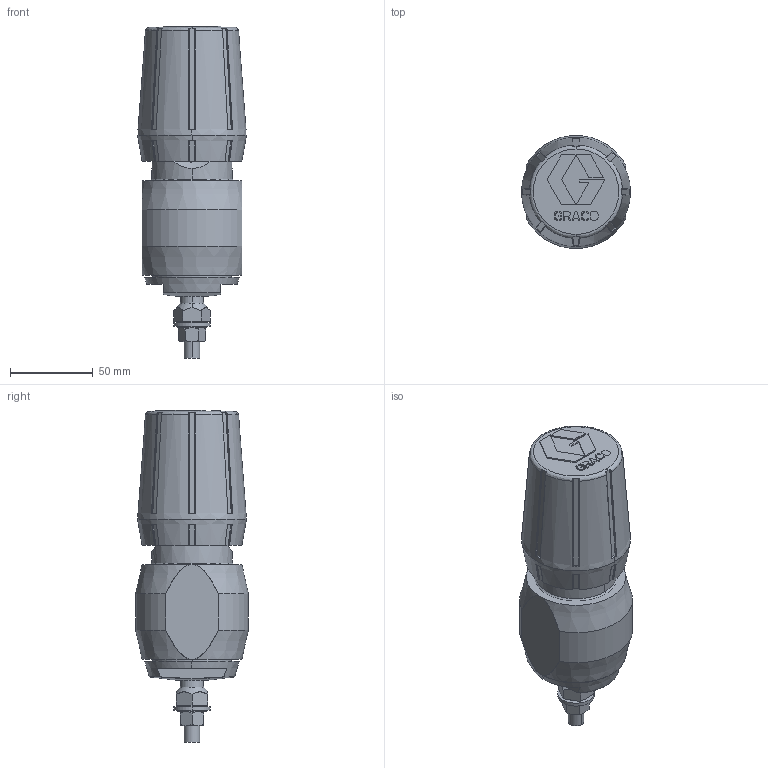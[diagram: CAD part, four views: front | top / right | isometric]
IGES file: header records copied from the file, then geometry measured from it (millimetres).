
Start section:  PTC IGES file: 217576-en-s.igs
Global section: file name: 217576-en-s.igs; native system: Creo Parametric by PTC Inc.; preprocessor: 2021072; author: qtmwp1; organization: Unknown; date: 20231107.142919; units: inch
Bounding box: 65.88 x 68.04 x 200.5 mm (x, y, z)
Surface area: 55480.9 mm2 (no closed solid volume)
Topology: 0 solids, 0 shells, 292 faces, 1560 edges, 1560 vertices
Faces by surface type: bspline 172, revolution 120
